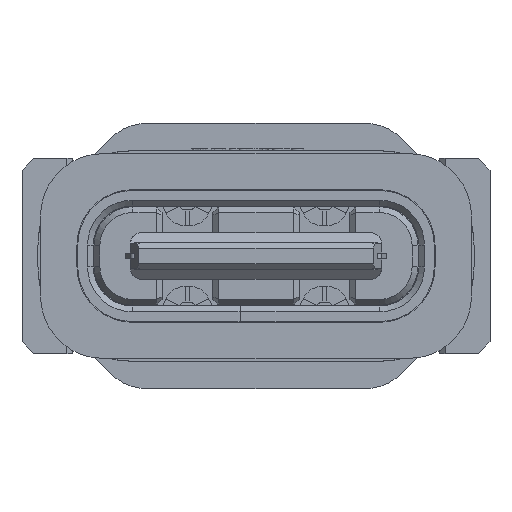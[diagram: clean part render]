
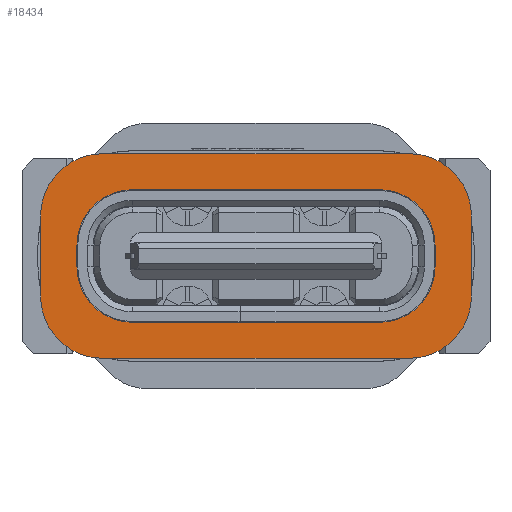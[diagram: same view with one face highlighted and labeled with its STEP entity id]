
A CAD part, front view. The second image highlights one B-rep face of the part: STEP entity #18434.
In plain terms, the highlighted planar face has unit normal (0, -1, 0).
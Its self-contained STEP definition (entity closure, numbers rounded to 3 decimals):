
#219 = VERTEX_POINT ( 'NONE', #34196 ) ;
#267 = CARTESIAN_POINT ( 'NONE',  ( -5.525, 0.55, 1.025 ) ) ;
#448 = DIRECTION ( 'NONE',  ( 0., 0., 1. ) ) ;
#584 = VECTOR ( 'NONE', #38957, 1000. ) ;
#845 = AXIS2_PLACEMENT_3D ( 'NONE', #35086, #31287, #12565 ) ;
#909 = CIRCLE ( 'NONE', #7395, 1.6 ) ;
#1630 = FACE_OUTER_BOUND ( 'NONE', #28332, .T. ) ;
#2298 = CIRCLE ( 'NONE', #48408, 1.42 ) ;
#2374 = VERTEX_POINT ( 'NONE', #12617 ) ;
#2450 = DIRECTION ( 'NONE',  ( 0., 0., 1. ) ) ;
#2985 = CARTESIAN_POINT ( 'NONE',  ( -4.59, 0.55, 0.28 ) ) ;
#3165 = ORIENTED_EDGE ( 'NONE', *, *, #22905, .T. ) ;
#3277 = CARTESIAN_POINT ( 'NONE',  ( -3.925, 0.55, 1.025 ) ) ;
#3479 = CARTESIAN_POINT ( 'NONE',  ( -3.925, 0.55, 2.625 ) ) ;
#3556 = LINE ( 'NONE', #267, #48048 ) ;
#3830 = DIRECTION ( 'NONE',  ( 0., 0., -1. ) ) ;
#4091 = DIRECTION ( 'NONE',  ( 0., -1., 0. ) ) ;
#4253 = DIRECTION ( 'NONE',  ( 0., -1., 0. ) ) ;
#4318 = CARTESIAN_POINT ( 'NONE',  ( 5.525, 0.55, -1.025 ) ) ;
#4776 = AXIS2_PLACEMENT_3D ( 'NONE', #42587, #34230, #3830 ) ;
#5338 = EDGE_CURVE ( 'NONE', #24600, #35577, #37754, .T. ) ;
#5461 = CARTESIAN_POINT ( 'NONE',  ( 3.17, 0.55, 1.7 ) ) ;
#6129 = EDGE_CURVE ( 'NONE', #16045, #2374, #41950, .T. ) ;
#6255 = VECTOR ( 'NONE', #35392, 1000. ) ;
#6281 = AXIS2_PLACEMENT_3D ( 'NONE', #3277, #10928, #42305 ) ;
#6639 = VERTEX_POINT ( 'NONE', #42158 ) ;
#7076 = ORIENTED_EDGE ( 'NONE', *, *, #6129, .F. ) ;
#7197 = CARTESIAN_POINT ( 'NONE',  ( -4.59, 0.55, -0.28 ) ) ;
#7395 = AXIS2_PLACEMENT_3D ( 'NONE', #13837, #14575, #14089 ) ;
#7961 = CIRCLE ( 'NONE', #42728, 1.6 ) ;
#7998 = LINE ( 'NONE', #23452, #21221 ) ;
#8519 = CARTESIAN_POINT ( 'NONE',  ( -3.17, 0.55, 1.7 ) ) ;
#8574 = VERTEX_POINT ( 'NONE', #30676 ) ;
#9889 = VERTEX_POINT ( 'NONE', #7197 ) ;
#10385 = CARTESIAN_POINT ( 'NONE',  ( 5.525, 0.55, 1.025 ) ) ;
#10928 = DIRECTION ( 'NONE',  ( 0., -1., 0. ) ) ;
#12238 = ORIENTED_EDGE ( 'NONE', *, *, #44371, .T. ) ;
#12565 = DIRECTION ( 'NONE',  ( 0., 0., -1. ) ) ;
#12617 = CARTESIAN_POINT ( 'NONE',  ( 4.59, 0.55, 0.28 ) ) ;
#12636 = CARTESIAN_POINT ( 'NONE',  ( 3.925, 0.55, -1.025 ) ) ;
#13324 = DIRECTION ( 'NONE',  ( 0., 0., -1. ) ) ;
#13423 = VERTEX_POINT ( 'NONE', #2985 ) ;
#13810 = CIRCLE ( 'NONE', #845, 1.42 ) ;
#13837 = CARTESIAN_POINT ( 'NONE',  ( 3.925, 0.55, 1.025 ) ) ;
#14089 = DIRECTION ( 'NONE',  ( 0., 0., -1. ) ) ;
#14310 = ORIENTED_EDGE ( 'NONE', *, *, #43511, .F. ) ;
#14575 = DIRECTION ( 'NONE',  ( 0., -1., 0. ) ) ;
#15229 = DIRECTION ( 'NONE',  ( 0., 0., -1. ) ) ;
#15303 = VERTEX_POINT ( 'NONE', #22166 ) ;
#16045 = VERTEX_POINT ( 'NONE', #45729 ) ;
#16159 = EDGE_CURVE ( 'NONE', #20798, #13423, #13810, .T. ) ;
#17178 = EDGE_LOOP ( 'NONE', ( #24676, #41087, #7076, #38187, #25451, #14310, #49619, #25517 ) ) ;
#17304 = ORIENTED_EDGE ( 'NONE', *, *, #46232, .T. ) ;
#18434 = ADVANCED_FACE ( 'NONE', ( #1630, #48733 ), #32277, .T. ) ;
#18757 = DIRECTION ( 'NONE',  ( 0., 0., 1. ) ) ;
#19071 = CARTESIAN_POINT ( 'NONE',  ( -3.925, 0.55, 2.625 ) ) ;
#19670 = DIRECTION ( 'NONE',  ( -1., 0., 0. ) ) ;
#19959 = VERTEX_POINT ( 'NONE', #4318 ) ;
#20023 = EDGE_CURVE ( 'NONE', #6639, #33412, #3556, .T. ) ;
#20063 = VECTOR ( 'NONE', #30284, 1000. ) ;
#20798 = VERTEX_POINT ( 'NONE', #8519 ) ;
#20854 = CARTESIAN_POINT ( 'NONE',  ( 3.925, 0.55, 2.625 ) ) ;
#21163 = CARTESIAN_POINT ( 'NONE',  ( -3.925, 0.55, 1.025 ) ) ;
#21221 = VECTOR ( 'NONE', #19670, 1000. ) ;
#21779 = VECTOR ( 'NONE', #18757, 1000. ) ;
#22166 = CARTESIAN_POINT ( 'NONE',  ( 3.925, 0.55, -2.625 ) ) ;
#22367 = CARTESIAN_POINT ( 'NONE',  ( 5.525, 0.55, 1.025 ) ) ;
#22905 = EDGE_CURVE ( 'NONE', #15303, #19959, #7961, .T. ) ;
#23452 = CARTESIAN_POINT ( 'NONE',  ( 3.17, 0.55, 1.7 ) ) ;
#24485 = AXIS2_PLACEMENT_3D ( 'NONE', #21163, #48234, #13324 ) ;
#24600 = VERTEX_POINT ( 'NONE', #20854 ) ;
#24676 = ORIENTED_EDGE ( 'NONE', *, *, #47374, .F. ) ;
#25079 = ORIENTED_EDGE ( 'NONE', *, *, #33401, .T. ) ;
#25302 = VERTEX_POINT ( 'NONE', #28518 ) ;
#25451 = ORIENTED_EDGE ( 'NONE', *, *, #29725, .F. ) ;
#25517 = ORIENTED_EDGE ( 'NONE', *, *, #16159, .F. ) ;
#27584 = CARTESIAN_POINT ( 'NONE',  ( -3.925, 0.55, -2.625 ) ) ;
#27627 = DIRECTION ( 'NONE',  ( 0., -1., 0. ) ) ;
#28204 = AXIS2_PLACEMENT_3D ( 'NONE', #38939, #4253, #448 ) ;
#28332 = EDGE_LOOP ( 'NONE', ( #33453, #40847, #25079, #39793, #3165, #12238, #17304, #29054 ) ) ;
#28518 = CARTESIAN_POINT ( 'NONE',  ( -3.17, 0.55, -1.7 ) ) ;
#28568 = DIRECTION ( 'NONE',  ( 0., 0., -1. ) ) ;
#28807 = DIRECTION ( 'NONE',  ( 0., -1., 0. ) ) ;
#29054 = ORIENTED_EDGE ( 'NONE', *, *, #5338, .T. ) ;
#29725 = EDGE_CURVE ( 'NONE', #25302, #8574, #38693, .T. ) ;
#29791 = EDGE_CURVE ( 'NONE', #219, #15303, #32098, .T. ) ;
#30038 = VECTOR ( 'NONE', #45883, 1000. ) ;
#30284 = DIRECTION ( 'NONE',  ( 0., 0., -1. ) ) ;
#30324 = CARTESIAN_POINT ( 'NONE',  ( 4.59, 0.55, -0.28 ) ) ;
#30676 = CARTESIAN_POINT ( 'NONE',  ( 3.17, 0.55, -1.7 ) ) ;
#31287 = DIRECTION ( 'NONE',  ( 0., -1., 0. ) ) ;
#31728 = VECTOR ( 'NONE', #2450, 1000. ) ;
#31920 = EDGE_CURVE ( 'NONE', #35577, #6639, #45918, .T. ) ;
#32094 = EDGE_CURVE ( 'NONE', #13423, #9889, #48777, .T. ) ;
#32098 = LINE ( 'NONE', #27584, #6255 ) ;
#32277 = PLANE ( 'NONE',  #24485 ) ;
#33090 = EDGE_CURVE ( 'NONE', #2374, #47450, #2298, .T. ) ;
#33401 = EDGE_CURVE ( 'NONE', #33412, #219, #50051, .T. ) ;
#33412 = VERTEX_POINT ( 'NONE', #46800 ) ;
#33453 = ORIENTED_EDGE ( 'NONE', *, *, #31920, .T. ) ;
#34196 = CARTESIAN_POINT ( 'NONE',  ( -3.925, 0.55, -2.625 ) ) ;
#34230 = DIRECTION ( 'NONE',  ( 0., -1., 0. ) ) ;
#34710 = CIRCLE ( 'NONE', #38750, 1.42 ) ;
#35086 = CARTESIAN_POINT ( 'NONE',  ( -3.17, 0.55, 0.28 ) ) ;
#35392 = DIRECTION ( 'NONE',  ( 1., 0., 0. ) ) ;
#35469 = CARTESIAN_POINT ( 'NONE',  ( 3.17, 0.55, -0.28 ) ) ;
#35577 = VERTEX_POINT ( 'NONE', #3479 ) ;
#37754 = LINE ( 'NONE', #19071, #30038 ) ;
#38187 = ORIENTED_EDGE ( 'NONE', *, *, #44161, .F. ) ;
#38693 = LINE ( 'NONE', #43747, #584 ) ;
#38750 = AXIS2_PLACEMENT_3D ( 'NONE', #35469, #4091, #42834 ) ;
#38939 = CARTESIAN_POINT ( 'NONE',  ( -3.925, 0.55, -1.025 ) ) ;
#38957 = DIRECTION ( 'NONE',  ( 1., 0., 0. ) ) ;
#39793 = ORIENTED_EDGE ( 'NONE', *, *, #29791, .T. ) ;
#40220 = DIRECTION ( 'NONE',  ( 0., 0., -1. ) ) ;
#40847 = ORIENTED_EDGE ( 'NONE', *, *, #20023, .T. ) ;
#41087 = ORIENTED_EDGE ( 'NONE', *, *, #33090, .F. ) ;
#41950 = LINE ( 'NONE', #30324, #31728 ) ;
#42158 = CARTESIAN_POINT ( 'NONE',  ( -5.525, 0.55, 1.025 ) ) ;
#42305 = DIRECTION ( 'NONE',  ( 0., 0., -1. ) ) ;
#42587 = CARTESIAN_POINT ( 'NONE',  ( -3.17, 0.55, -0.28 ) ) ;
#42728 = AXIS2_PLACEMENT_3D ( 'NONE', #12636, #28807, #28568 ) ;
#42834 = DIRECTION ( 'NONE',  ( 0., 0., -1. ) ) ;
#43511 = EDGE_CURVE ( 'NONE', #9889, #25302, #47614, .T. ) ;
#43747 = CARTESIAN_POINT ( 'NONE',  ( -3.17, 0.55, -1.7 ) ) ;
#43791 = CARTESIAN_POINT ( 'NONE',  ( 3.17, 0.55, 0.28 ) ) ;
#44161 = EDGE_CURVE ( 'NONE', #8574, #16045, #34710, .T. ) ;
#44371 = EDGE_CURVE ( 'NONE', #19959, #46560, #44821, .T. ) ;
#44724 = CARTESIAN_POINT ( 'NONE',  ( -4.59, 0.55, 0.28 ) ) ;
#44821 = LINE ( 'NONE', #10385, #21779 ) ;
#45729 = CARTESIAN_POINT ( 'NONE',  ( 4.59, 0.55, -0.28 ) ) ;
#45883 = DIRECTION ( 'NONE',  ( -1., 0., 0. ) ) ;
#45918 = CIRCLE ( 'NONE', #6281, 1.6 ) ;
#46232 = EDGE_CURVE ( 'NONE', #46560, #24600, #909, .T. ) ;
#46560 = VERTEX_POINT ( 'NONE', #22367 ) ;
#46800 = CARTESIAN_POINT ( 'NONE',  ( -5.525, 0.55, -1.025 ) ) ;
#47374 = EDGE_CURVE ( 'NONE', #47450, #20798, #7998, .T. ) ;
#47450 = VERTEX_POINT ( 'NONE', #5461 ) ;
#47614 = CIRCLE ( 'NONE', #4776, 1.42 ) ;
#48048 = VECTOR ( 'NONE', #15229, 1000. ) ;
#48234 = DIRECTION ( 'NONE',  ( 0., -1., 0. ) ) ;
#48408 = AXIS2_PLACEMENT_3D ( 'NONE', #43791, #27627, #40220 ) ;
#48733 = FACE_BOUND ( 'NONE', #17178, .T. ) ;
#48777 = LINE ( 'NONE', #44724, #20063 ) ;
#49619 = ORIENTED_EDGE ( 'NONE', *, *, #32094, .F. ) ;
#50051 = CIRCLE ( 'NONE', #28204, 1.6 ) ;
